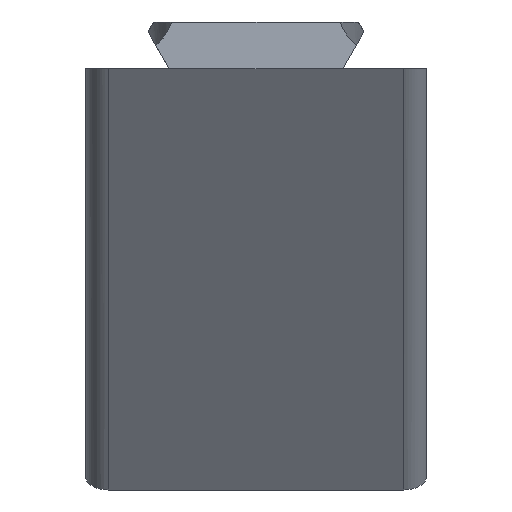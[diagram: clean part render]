
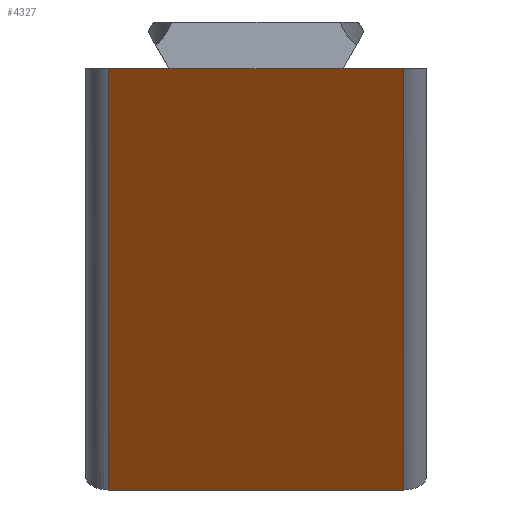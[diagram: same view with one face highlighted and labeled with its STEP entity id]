
A CAD part, left-side view. The second image highlights one B-rep face of the part: STEP entity #4327.
In plain terms, the highlighted planar face has unit normal (-0.799, 0, -0.602).
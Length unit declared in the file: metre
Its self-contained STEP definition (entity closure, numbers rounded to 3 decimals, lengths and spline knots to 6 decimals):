
#635=ORIENTED_EDGE('',*,*,#1715,.T.);
#636=ORIENTED_EDGE('',*,*,#1915,.T.);
#637=ORIENTED_EDGE('',*,*,#1667,.F.);
#638=ORIENTED_EDGE('',*,*,#1916,.T.);
#639=ORIENTED_EDGE('',*,*,#1731,.T.);
#640=ORIENTED_EDGE('',*,*,#1910,.T.);
#1667=EDGE_CURVE('',#2323,#2324,#2760,.T.);
#1715=EDGE_CURVE('',#2372,#2371,#2784,.T.);
#1731=EDGE_CURVE('',#2388,#2387,#2794,.T.);
#1910=EDGE_CURVE('',#2387,#2372,#2888,.T.);
#1915=EDGE_CURVE('',#2371,#2324,#2889,.T.);
#1916=EDGE_CURVE('',#2323,#2388,#2890,.F.);
#2323=VERTEX_POINT('',#5843);
#2324=VERTEX_POINT('',#5845);
#2371=VERTEX_POINT('',#5943);
#2372=VERTEX_POINT('',#5945);
#2387=VERTEX_POINT('',#5975);
#2388=VERTEX_POINT('',#5977);
#2760=LINE('',#5844,#3190);
#2784=LINE('',#5944,#3214);
#2794=LINE('',#5976,#3224);
#2888=LINE('',#6449,#3318);
#2889=LINE('',#6460,#3319);
#2890=LINE('',#6461,#3320);
#3190=VECTOR('',#4856,1.);
#3214=VECTOR('',#4936,1.);
#3224=VECTOR('',#4958,1.);
#3318=VECTOR('',#5128,1.);
#3319=VECTOR('',#5145,1.);
#3320=VECTOR('',#5146,1.);
#3659=EDGE_LOOP('',(#635,#636,#637,#638,#639,#640));
#3937=FACE_BOUND('',#3659,.T.);
#4188=PLANE('',#4646);
#4327=ADVANCED_FACE('',(#3937),#4188,.F.);
#4646=AXIS2_PLACEMENT_3D('',#6459,#5143,#5144);
#4856=DIRECTION('',(0.,1.,0.));
#4936=DIRECTION('',(0.,1.,0.));
#4958=DIRECTION('',(0.,1.,0.));
#5128=DIRECTION('',(0.,1.,0.));
#5143=DIRECTION('',(0.799,0.,0.602));
#5144=DIRECTION('',(0.602,0.,-0.799));
#5145=DIRECTION('',(0.602,0.,-0.799));
#5146=DIRECTION('',(0.602,0.,-0.799));
#5843=CARTESIAN_POINT('',(0.027952,-0.013,-0.037093));
#5844=CARTESIAN_POINT('',(0.027952,-0.015,-0.037093));
#5845=CARTESIAN_POINT('',(0.027952,0.013,-0.037093));
#5943=CARTESIAN_POINT('',(0.,0.013,0.));
#5944=CARTESIAN_POINT('',(0.,-0.015,0.));
#5945=CARTESIAN_POINT('',(0.,0.007695,0.));
#5975=CARTESIAN_POINT('',(0.,-0.007695,0.));
#5976=CARTESIAN_POINT('',(0.,-0.015,0.));
#5977=CARTESIAN_POINT('',(0.,-0.013,0.));
#6449=CARTESIAN_POINT('',(0.,0.,0.));
#6459=CARTESIAN_POINT('',(0.013976,-0.015,-0.018547));
#6460=CARTESIAN_POINT('',(0.013976,0.013,-0.018547));
#6461=CARTESIAN_POINT('',(0.,-0.013,0.));
